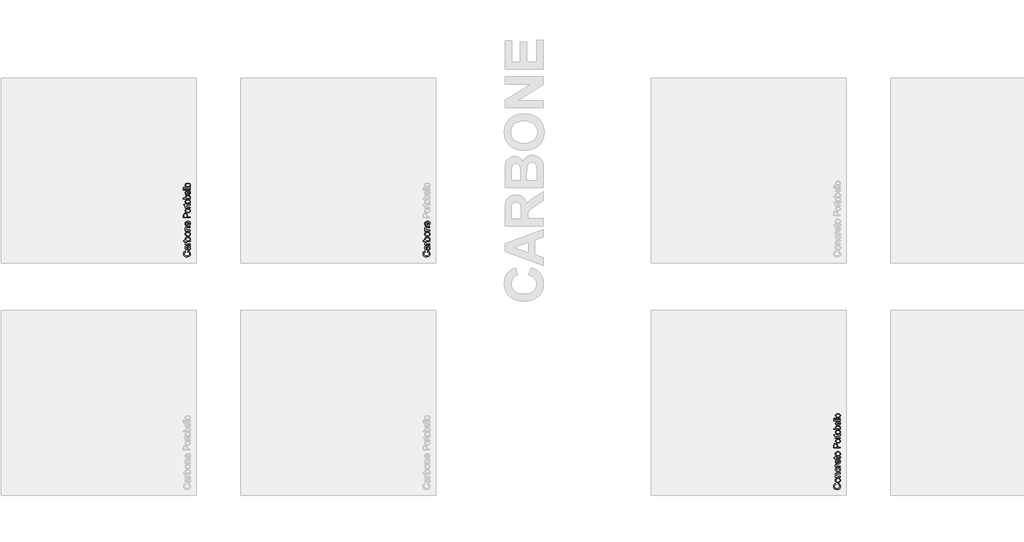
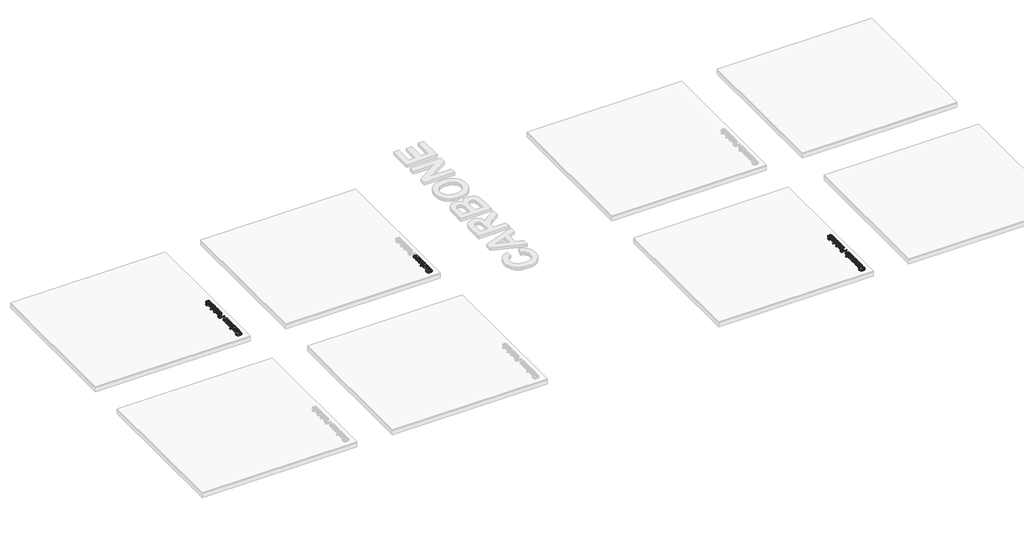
# One storey, part 4 of 12: 5 proxies.
"""IFC4 building model written with IfcOpenShell, lengths in millimetres."""

from ifc_helpers import new_model, si_unit, frame, origin, place, context, project, spatial, polyline, outline, extrude, element, save

model = new_model("IFC4")

# Units and contexts
model_context = context("Model", 3, world=origin())
ifc_project = project(units=[si_unit("LENGTHUNIT", "METRE", prefix="MILLI")], contexts=[model_context])

# Site, building, storey
site = spatial("IfcSite", under=ifc_project)
building = spatial("IfcBuilding", under=site)
storey = spatial("IfcBuildingStorey", under=building, Name="PORTOBELLO - SHOWROOM", Elevation=0.0)

# Proxies
placement = place(None, origin())
element("IfcBuildingElementProxy", 1, Name="10mm Arial", ObjectType="10mm Arial", at=placement, inside=storey, context=model_context, shape_type="SweptSolid", body=[
    extrude(outline(polyline([(-25305.3095564, -6297.3091823), (-25302.0721949, -6284.7521435), (-25287.4396885, -6290.5462849), (-25276.7496509, -6299.6391016), (-25270.2105484, -6311.5830037), (-25268.0308476, -6325.9304015), (-25269.6801852, -6340.4954628), (-25274.628198, -6352.0622859), (-25282.7032078, -6360.928242), (-25293.7335363, -6367.3907024), (-25320.588922, -6372.6514149), (-25335.2367567, -6371.1645585), (-25347.885766, -6366.7039893), (-25358.1343452, -6359.5026993), (-25365.58089, -6349.7936803), (-25370.1150356, -6338.2789738), (-25371.6264174, -6325.6606214), (-25369.6705115, -6311.8926377), (-25363.8027937, -6300.5097556), (-25354.3850146, -6291.8675944), (-25341.7789249, -6286.3217734), (-25338.786818, -6298.8788121), (-25354.2255991, -6309.179508), (-25359.0693787, -6326.1511307), (-25353.6983015, -6345.7960293), (-25339.2773273, -6356.8938028), (-25320.6134474, -6360.0943761), (-25298.9819861, -6356.3051916), (-25285.1618858, -6344.5084423), (-25280.5878863, -6327.1812003), (-25282.1452535, -6316.6996291), (-25286.8173548, -6307.9654974), (-25294.5551394, -6301.3712127), (-25305.3095564, -6297.3091823)])), frame((0.0, 0.0, 17.0), z_axis=(0.0, 0.0, 1.0), x_axis=(1.0, 0.0, 0.0)), (0.0, 0.0, 1.0), 20.0),
    extrude(outline(polyline([(-25279.0182565, -6221.9669497), (-25270.5079197, -6234.1438437), (-25268.0308476, -6247.596062), (-25269.5207697, -6258.0898959), (-25273.9905359, -6265.8307462), (-25280.7779587, -6270.6040151), (-25289.2208505, -6272.1951048), (-25299.1536644, -6269.7916091), (-25306.3641515, -6263.4763015), (-25310.4844298, -6254.6839218), (-25312.3728907, -6243.8191402), (-25316.6893728, -6222.0405261), (-25319.485276, -6221.9669497), (-25328.7559023, -6225.4250404), (-25332.3856713, -6239.3064544), (-25329.9699128, -6252.010646), (-25321.3982623, -6258.0684361), (-25322.9678922, -6270.6254749), (-25335.2306254, -6265.1930841), (-25342.416587, -6254.2547261), (-25344.94271, -6237.6877736), (-25342.7108926, -6222.4697217), (-25337.1068235, -6213.8735458), (-25328.584224, -6210.0230476), (-25317.5968151, -6209.4099109), (-25301.974093, -6209.4099109), (-25280.1586907, -6208.7722488), (-25269.6004774, -6206.2706512), (-25269.6004774, -6218.82769), (-25279.0182565, -6221.9669497)]), holes=[polyline([(-25304.132334, -6221.9669497), (-25300.2818358, -6242.2249849), (-25298.2462221, -6253.0284528), (-25294.9352842, -6257.9212833), (-25290.1037673, -6259.638066), (-25283.3102131, -6255.8979324), (-25280.5878863, -6244.9227862), (-25283.592256, -6232.2185946), (-25290.8640567, -6224.0270889), (-25300.5761414, -6222.0405261), (-25304.132334, -6221.9669497)])]), frame((0.0, 0.0, 17.0), z_axis=(0.0, 0.0, 1.0), x_axis=(1.0, 0.0, 0.0)), (0.0, 0.0, 1.0), 20.0),
    extrude(outline(polyline([(-25269.6004774, -6192.1439826), (-25343.3730802, -6192.1439826), (-25343.3730802, -6181.1565737), (-25332.4592477, -6181.1565737), (-25342.5146889, -6173.3574754), (-25344.94271, -6165.5093262), (-25341.0676864, -6152.9032364), (-25329.8104973, -6157.0970912), (-25332.3856713, -6165.9262591), (-25329.9085992, -6173.0263816), (-25323.0414686, -6177.5513301), (-25308.3752397, -6179.5869438), (-25269.6004774, -6179.5869438), (-25269.6004774, -6192.1439826)])), frame((0.0, 0.0, 17.0), z_axis=(0.0, 0.0, 1.0), x_axis=(1.0, 0.0, 0.0)), (0.0, 0.0, 1.0), 20.0),
    extrude(outline(polyline([(-25269.6004774, -6132.4980485), (-25269.6004774, -6145.0550872), (-25370.0567876, -6145.0550872), (-25370.0567876, -6132.4980485), (-25332.8026042, -6132.4980485), (-25341.9076836, -6123.7056688), (-25344.94271, -6112.7795735), (-25342.2081205, -6100.1980093), (-25334.5193868, -6090.4368737), (-25322.563222, -6084.4403971), (-25307.5904248, -6082.2698934), (-25290.8272685, -6084.5170392), (-25278.3560689, -6091.2584768), (-25270.6121529, -6101.1514368), (-25268.0308476, -6112.8531499), (-25271.3601796, -6124.0183685), (-25281.3481758, -6132.4980485), (-25269.6004774, -6132.4980485)]), holes=[polyline([(-25307.0018136, -6132.4980485), (-25289.4415797, -6129.0644832), (-25282.8013097, -6122.4855268), (-25280.5878863, -6113.9322704), (-25282.2188299, -6106.6849951), (-25287.1116604, -6100.4923149), (-25295.2357211, -6096.2432778), (-25306.5603552, -6094.8269321), (-25318.0505362, -6096.1850298), (-25326.0826264, -6100.2593229), (-25330.8099101, -6106.2588651), (-25332.3856713, -6113.3927102), (-25330.7547278, -6120.6399855), (-25325.8618972, -6126.8326657), (-25317.8849893, -6131.0817028), (-25307.0018136, -6132.4980485)])]), frame((0.0, 0.0, 17.0), z_axis=(0.0, 0.0, 1.0), x_axis=(1.0, 0.0, 0.0)), (0.0, 0.0, 1.0), 20.0),
    extrude(outline(polyline([(-25306.4867788, -6071.2824845), (-25324.2738733, -6068.5662891), (-25336.7757297, -6060.4177029), (-25342.900965, -6050.3499989), (-25344.94271, -6038.2957322), (-25342.4564409, -6025.104097), (-25334.9976334, -6014.5673435), (-25323.1548989, -6007.6603591), (-25307.5168484, -6005.3580309), (-25285.1741486, -6009.4292583), (-25272.5312707, -6021.2873213), (-25268.0308476, -6038.2957322), (-25270.5079197, -6051.646783), (-25277.939136, -6062.1712737), (-25290.0301909, -6069.0046818), (-25306.4867788, -6071.2824845)]), holes=[polyline([(-25306.5113043, -6058.7254457), (-25295.1468163, -6057.2723118), (-25287.0503467, -6052.9129102), (-25282.2035014, -6046.3523479), (-25280.5878863, -6038.2957322), (-25282.2126985, -6030.2759047), (-25287.0871349, -6023.7276052), (-25295.2909034, -6019.3682036), (-25306.9037117, -6017.9150697), (-25317.9371059, -6019.3774006), (-25325.9232109, -6023.7643934), (-25330.7700562, -6030.32189), (-25332.3856713, -6038.2957322), (-25330.7761875, -6046.3523479), (-25325.9477364, -6052.9129102), (-25317.8696609, -6057.2723118), (-25306.5113043, -6058.7254457)])]), frame((0.0, 0.0, 17.0), z_axis=(0.0, 0.0, 1.0), x_axis=(1.0, 0.0, 0.0)), (0.0, 0.0, 1.0), 20.0),
    extrude(outline(polyline([(-25269.6004774, -5991.2313623), (-25343.3730802, -5991.2313623), (-25343.3730802, -5978.6743235), (-25333.0723843, -5978.6743235), (-25341.9751286, -5969.0726035), (-25344.94271, -5955.9637417), (-25342.5514771, -5944.1056787), (-25336.2729577, -5936.0122748), (-25327.0391196, -5932.2476157), (-25314.8990138, -5931.5854282), (-25269.6004774, -5931.5854282), (-25269.6004774, -5944.1424669), (-25313.2067566, -5944.1424669), (-25324.3167928, -5945.5894694), (-25330.190642, -5950.7030292), (-25332.3856713, -5959.3237306), (-25327.4560525, -5972.9476271), (-25320.3130105, -5977.2426494), (-25308.7431217, -5978.6743235), (-25269.6004774, -5978.6743235), (-25269.6004774, -5991.2313623)])), frame((0.0, 0.0, 17.0), z_axis=(0.0, 0.0, 1.0), x_axis=(1.0, 0.0, 0.0)), (0.0, 0.0, 1.0), 20.0),
    extrude(outline(polyline([(-25291.5752953, -5862.6688677), (-25290.0056654, -5850.3570836), (-25280.7289078, -5854.7931273), (-25273.7943322, -5861.8717901), (-25269.4717187, -5871.4336563), (-25268.0308476, -5883.3193104), (-25270.5171167, -5898.0529843), (-25277.9759242, -5909.3898811), (-25289.922892, -5916.6187623), (-25305.8736422, -5919.0283894), (-25322.3608869, -5916.5942368), (-25334.6910651, -5909.2917792), (-25342.3797988, -5898.1081666), (-25344.94271, -5884.0305489), (-25342.3859302, -5870.3913239), (-25334.7155906, -5859.4928198), (-25322.4099378, -5852.3467121), (-25305.9472185, -5849.9646762), (-25302.5627042, -5850.0382526), (-25302.5627042, -5906.4713506), (-25293.1633192, -5904.2977812), (-25286.2532691, -5899.2486008), (-25282.004232, -5891.9614716), (-25280.5878863, -5883.0740557), (-25283.2121112, -5870.7622716), (-25291.5752953, -5862.6688677)]), holes=[polyline([(-25315.119743, -5906.4713506), (-25315.119743, -5862.5217149), (-25326.4995593, -5867.5494355), (-25330.9141433, -5874.8702872), (-25332.3856713, -5884.0795998), (-25327.6890445, -5899.5429064), (-25322.1984057, -5904.4081458), (-25315.119743, -5906.4713506)])]), frame((0.0, 0.0, 17.0), z_axis=(0.0, 0.0, 1.0), x_axis=(1.0, 0.0, 0.0)), (0.0, 0.0, 1.0), 20.0),
])
element("IfcBuildingElementProxy", 2, Name="10mm Arial", ObjectType="10mm Arial", at=placement, inside=storey, context=model_context, shape_type="SweptSolid", body=[
    extrude(outline(polyline([(-28805.3095564, -6297.3091823), (-28802.0721949, -6284.7521435), (-28787.4396885, -6290.5462849), (-28776.7496509, -6299.6391016), (-28770.2105484, -6311.5830037), (-28768.0308476, -6325.9304015), (-28769.6801852, -6340.4954628), (-28774.628198, -6352.0622859), (-28782.7032078, -6360.928242), (-28793.7335363, -6367.3907024), (-28820.588922, -6372.6514149), (-28835.2367567, -6371.1645585), (-28847.885766, -6366.7039893), (-28858.1343452, -6359.5026993), (-28865.58089, -6349.7936803), (-28870.1150356, -6338.2789738), (-28871.6264174, -6325.6606214), (-28869.6705115, -6311.8926377), (-28863.8027937, -6300.5097556), (-28854.3850146, -6291.8675944), (-28841.7789249, -6286.3217734), (-28838.786818, -6298.8788121), (-28854.2255991, -6309.179508), (-28859.0693787, -6326.1511307), (-28853.6983015, -6345.7960293), (-28839.2773273, -6356.8938028), (-28820.6134474, -6360.0943761), (-28798.9819861, -6356.3051916), (-28785.1618858, -6344.5084423), (-28780.5878863, -6327.1812003), (-28782.1452535, -6316.6996291), (-28786.8173548, -6307.9654974), (-28794.5551394, -6301.3712127), (-28805.3095564, -6297.3091823)])), frame((0.0, 0.0, 17.0), z_axis=(0.0, 0.0, 1.0), x_axis=(1.0, 0.0, 0.0)), (0.0, 0.0, 1.0), 20.0),
    extrude(outline(polyline([(-28779.0182565, -6221.9669497), (-28770.5079197, -6234.1438437), (-28768.0308476, -6247.596062), (-28769.5207697, -6258.0898959), (-28773.9905359, -6265.8307462), (-28780.7779587, -6270.6040151), (-28789.2208505, -6272.1951048), (-28799.1536644, -6269.7916091), (-28806.3641515, -6263.4763015), (-28810.4844298, -6254.6839218), (-28812.3728907, -6243.8191402), (-28816.6893728, -6222.0405261), (-28819.485276, -6221.9669497), (-28828.7559023, -6225.4250404), (-28832.3856713, -6239.3064544), (-28829.9699128, -6252.010646), (-28821.3982623, -6258.0684361), (-28822.9678922, -6270.6254749), (-28835.2306254, -6265.1930841), (-28842.416587, -6254.2547261), (-28844.94271, -6237.6877736), (-28842.7108926, -6222.4697217), (-28837.1068235, -6213.8735458), (-28828.584224, -6210.0230476), (-28817.5968151, -6209.4099109), (-28801.974093, -6209.4099109), (-28780.1586907, -6208.7722488), (-28769.6004774, -6206.2706512), (-28769.6004774, -6218.82769), (-28779.0182565, -6221.9669497)]), holes=[polyline([(-28804.132334, -6221.9669497), (-28800.2818358, -6242.2249849), (-28798.2462221, -6253.0284528), (-28794.9352842, -6257.9212833), (-28790.1037673, -6259.638066), (-28783.3102131, -6255.8979324), (-28780.5878863, -6244.9227862), (-28783.592256, -6232.2185946), (-28790.8640567, -6224.0270889), (-28800.5761414, -6222.0405261), (-28804.132334, -6221.9669497)])]), frame((0.0, 0.0, 17.0), z_axis=(0.0, 0.0, 1.0), x_axis=(1.0, 0.0, 0.0)), (0.0, 0.0, 1.0), 20.0),
    extrude(outline(polyline([(-28769.6004774, -6192.1439826), (-28843.3730802, -6192.1439826), (-28843.3730802, -6181.1565737), (-28832.4592477, -6181.1565737), (-28842.5146889, -6173.3574754), (-28844.94271, -6165.5093262), (-28841.0676864, -6152.9032364), (-28829.8104973, -6157.0970912), (-28832.3856713, -6165.9262591), (-28829.9085992, -6173.0263816), (-28823.0414686, -6177.5513301), (-28808.3752397, -6179.5869438), (-28769.6004774, -6179.5869438), (-28769.6004774, -6192.1439826)])), frame((0.0, 0.0, 17.0), z_axis=(0.0, 0.0, 1.0), x_axis=(1.0, 0.0, 0.0)), (0.0, 0.0, 1.0), 20.0),
    extrude(outline(polyline([(-28769.6004774, -6132.4980485), (-28769.6004774, -6145.0550872), (-28870.0567876, -6145.0550872), (-28870.0567876, -6132.4980485), (-28832.8026042, -6132.4980485), (-28841.9076836, -6123.7056688), (-28844.94271, -6112.7795735), (-28842.2081205, -6100.1980093), (-28834.5193868, -6090.4368737), (-28822.563222, -6084.4403971), (-28807.5904248, -6082.2698934), (-28790.8272685, -6084.5170392), (-28778.3560689, -6091.2584768), (-28770.6121529, -6101.1514368), (-28768.0308476, -6112.8531499), (-28771.3601796, -6124.0183685), (-28781.3481758, -6132.4980485), (-28769.6004774, -6132.4980485)]), holes=[polyline([(-28807.0018136, -6132.4980485), (-28789.4415797, -6129.0644832), (-28782.8013097, -6122.4855268), (-28780.5878863, -6113.9322704), (-28782.2188299, -6106.6849951), (-28787.1116604, -6100.4923149), (-28795.2357211, -6096.2432778), (-28806.5603552, -6094.8269321), (-28818.0505362, -6096.1850298), (-28826.0826264, -6100.2593229), (-28830.8099101, -6106.2588651), (-28832.3856713, -6113.3927102), (-28830.7547278, -6120.6399855), (-28825.8618972, -6126.8326657), (-28817.8849893, -6131.0817028), (-28807.0018136, -6132.4980485)])]), frame((0.0, 0.0, 17.0), z_axis=(0.0, 0.0, 1.0), x_axis=(1.0, 0.0, 0.0)), (0.0, 0.0, 1.0), 20.0),
    extrude(outline(polyline([(-28806.4867788, -6071.2824845), (-28824.2738733, -6068.5662891), (-28836.7757297, -6060.4177029), (-28842.900965, -6050.3499989), (-28844.94271, -6038.2957322), (-28842.4564409, -6025.104097), (-28834.9976334, -6014.5673435), (-28823.1548989, -6007.6603591), (-28807.5168484, -6005.3580309), (-28785.1741486, -6009.4292583), (-28772.5312707, -6021.2873213), (-28768.0308476, -6038.2957322), (-28770.5079197, -6051.646783), (-28777.939136, -6062.1712737), (-28790.0301909, -6069.0046818), (-28806.4867788, -6071.2824845)]), holes=[polyline([(-28806.5113043, -6058.7254457), (-28795.1468163, -6057.2723118), (-28787.0503467, -6052.9129102), (-28782.2035014, -6046.3523479), (-28780.5878863, -6038.2957322), (-28782.2126985, -6030.2759047), (-28787.0871349, -6023.7276052), (-28795.2909034, -6019.3682036), (-28806.9037117, -6017.9150697), (-28817.9371059, -6019.3774006), (-28825.9232109, -6023.7643934), (-28830.7700562, -6030.32189), (-28832.3856713, -6038.2957322), (-28830.7761875, -6046.3523479), (-28825.9477364, -6052.9129102), (-28817.8696609, -6057.2723118), (-28806.5113043, -6058.7254457)])]), frame((0.0, 0.0, 17.0), z_axis=(0.0, 0.0, 1.0), x_axis=(1.0, 0.0, 0.0)), (0.0, 0.0, 1.0), 20.0),
    extrude(outline(polyline([(-28769.6004774, -5991.2313623), (-28843.3730802, -5991.2313623), (-28843.3730802, -5978.6743235), (-28833.0723843, -5978.6743235), (-28841.9751286, -5969.0726035), (-28844.94271, -5955.9637417), (-28842.5514771, -5944.1056787), (-28836.2729577, -5936.0122748), (-28827.0391196, -5932.2476157), (-28814.8990138, -5931.5854282), (-28769.6004774, -5931.5854282), (-28769.6004774, -5944.1424669), (-28813.2067566, -5944.1424669), (-28824.3167928, -5945.5894694), (-28830.190642, -5950.7030292), (-28832.3856713, -5959.3237306), (-28827.4560525, -5972.9476271), (-28820.3130105, -5977.2426494), (-28808.7431217, -5978.6743235), (-28769.6004774, -5978.6743235), (-28769.6004774, -5991.2313623)])), frame((0.0, 0.0, 17.0), z_axis=(0.0, 0.0, 1.0), x_axis=(1.0, 0.0, 0.0)), (0.0, 0.0, 1.0), 20.0),
    extrude(outline(polyline([(-28791.5752953, -5862.6688677), (-28790.0056654, -5850.3570836), (-28780.7289078, -5854.7931273), (-28773.7943322, -5861.8717901), (-28769.4717187, -5871.4336563), (-28768.0308476, -5883.3193104), (-28770.5171167, -5898.0529843), (-28777.9759242, -5909.3898811), (-28789.922892, -5916.6187623), (-28805.8736422, -5919.0283894), (-28822.3608869, -5916.5942368), (-28834.6910651, -5909.2917792), (-28842.3797988, -5898.1081666), (-28844.94271, -5884.0305489), (-28842.3859302, -5870.3913239), (-28834.7155906, -5859.4928198), (-28822.4099378, -5852.3467121), (-28805.9472185, -5849.9646762), (-28802.5627042, -5850.0382526), (-28802.5627042, -5906.4713506), (-28793.1633192, -5904.2977812), (-28786.2532691, -5899.2486008), (-28782.004232, -5891.9614716), (-28780.5878863, -5883.0740557), (-28783.2121112, -5870.7622716), (-28791.5752953, -5862.6688677)]), holes=[polyline([(-28815.119743, -5906.4713506), (-28815.119743, -5862.5217149), (-28826.4995593, -5867.5494355), (-28830.9141433, -5874.8702872), (-28832.3856713, -5884.0795998), (-28827.6890445, -5899.5429064), (-28822.1984057, -5904.4081458), (-28815.119743, -5906.4713506)])]), frame((0.0, 0.0, 17.0), z_axis=(0.0, 0.0, 1.0), x_axis=(1.0, 0.0, 0.0)), (0.0, 0.0, 1.0), 20.0),
])
element("IfcBuildingElementProxy", 3, Name="10mm Arial", ObjectType="10mm Arial", at=placement, inside=storey, context=model_context, shape_type="SweptSolid", body=[
    extrude(outline(polyline([(-19305.3095564, -9697.3091823), (-19302.0721949, -9684.7521435), (-19287.4396885, -9690.5462849), (-19276.7496509, -9699.6391016), (-19270.2105484, -9711.5830037), (-19268.0308476, -9725.9304015), (-19269.6801852, -9740.4954628), (-19274.628198, -9752.0622859), (-19282.7032078, -9760.928242), (-19293.7335363, -9767.3907024), (-19320.588922, -9772.6514149), (-19335.2367567, -9771.1645585), (-19347.885766, -9766.7039893), (-19358.1343452, -9759.5026993), (-19365.58089, -9749.7936803), (-19370.1150356, -9738.2789738), (-19371.6264174, -9725.6606214), (-19369.6705115, -9711.8926377), (-19363.8027937, -9700.5097556), (-19354.3850146, -9691.8675944), (-19341.7789249, -9686.3217734), (-19338.786818, -9698.8788121), (-19354.2255991, -9709.179508), (-19359.0693787, -9726.1511307), (-19353.6983015, -9745.7960293), (-19339.2773273, -9756.8938028), (-19320.6134474, -9760.0943761), (-19298.9819861, -9756.3051916), (-19285.1618858, -9744.5084423), (-19280.5878863, -9727.1812003), (-19282.1452535, -9716.6996291), (-19286.8173548, -9707.9654974), (-19294.5551394, -9701.3712127), (-19305.3095564, -9697.3091823)])), frame((0.0, 0.0, 17.0), z_axis=(0.0, 0.0, 1.0), x_axis=(1.0, 0.0, 0.0)), (0.0, 0.0, 1.0), 20.0),
    extrude(outline(polyline([(-19306.4867788, -9672.1951048), (-19324.2738733, -9669.4789094), (-19336.7757297, -9661.3303232), (-19342.900965, -9651.2626192), (-19344.94271, -9639.2083525), (-19342.4564409, -9626.0167173), (-19334.9976334, -9615.4799638), (-19323.1548989, -9608.5729794), (-19307.5168484, -9606.2706512), (-19285.1741486, -9610.3418786), (-19272.5312707, -9622.1999416), (-19268.0308476, -9639.2083525), (-19270.5079197, -9652.5594033), (-19277.939136, -9663.083894), (-19290.0301909, -9669.9173021), (-19306.4867788, -9672.1951048)]), holes=[polyline([(-19306.5113043, -9659.638066), (-19295.1468163, -9658.1849321), (-19287.0503467, -9653.8255305), (-19282.2035014, -9647.2649682), (-19280.5878863, -9639.2083525), (-19282.2126985, -9631.188525), (-19287.0871349, -9624.6402255), (-19295.2909034, -9620.2808239), (-19306.9037117, -9618.82769), (-19317.9371059, -9620.2900209), (-19325.9232109, -9624.6770137), (-19330.7700562, -9631.2345103), (-19332.3856713, -9639.2083525), (-19330.7761875, -9647.2649682), (-19325.9477364, -9653.8255305), (-19317.8696609, -9658.1849321), (-19306.5113043, -9659.638066)])]), frame((0.0, 0.0, 17.0), z_axis=(0.0, 0.0, 1.0), x_axis=(1.0, 0.0, 0.0)), (0.0, 0.0, 1.0), 20.0),
    extrude(outline(polyline([(-19269.6004774, -9592.1439826), (-19343.3730802, -9592.1439826), (-19343.3730802, -9579.5869438), (-19333.0723843, -9579.5869438), (-19341.9751286, -9569.9852238), (-19344.94271, -9556.876362), (-19342.5514771, -9545.018299), (-19336.2729577, -9536.9248951), (-19327.0391196, -9533.160236), (-19314.8990138, -9532.4980485), (-19269.6004774, -9532.4980485), (-19269.6004774, -9545.0550872), (-19313.2067566, -9545.0550872), (-19324.3167928, -9546.5020897), (-19330.190642, -9551.6156495), (-19332.3856713, -9560.2363509), (-19327.4560525, -9573.8602474), (-19320.3130105, -9578.1552697), (-19308.7431217, -9579.5869438), (-19269.6004774, -9579.5869438), (-19269.6004774, -9592.1439826)])), frame((0.0, 0.0, 17.0), z_axis=(0.0, 0.0, 1.0), x_axis=(1.0, 0.0, 0.0)), (0.0, 0.0, 1.0), 20.0),
    extrude(outline(polyline([(-19296.2841848, -9468.1432248), (-19294.714555, -9455.586186), (-19283.5462707, -9459.0871963), (-19275.1064446, -9465.6661527), (-19269.7997468, -9474.703787), (-19268.0308476, -9485.5808313), (-19270.4987226, -9498.9380134), (-19277.9023478, -9509.3827964), (-19289.9167606, -9516.124234), (-19306.2169987, -9518.3713798), (-19327.0759078, -9514.5331444), (-19340.4790752, -9502.8344969), (-19344.94271, -9485.7525096), (-19343.4098684, -9475.1421797), (-19338.8113435, -9466.659434), (-19331.3923899, -9460.5740527), (-19321.3982623, -9457.1558158), (-19319.8286325, -9469.7128546), (-19329.2341488, -9475.5376529), (-19332.3856713, -9485.6544077), (-19330.8344355, -9493.7692714), (-19326.1807283, -9500.210272), (-19318.1731635, -9504.4133238), (-19306.5603552, -9505.8143411), (-19294.791197, -9504.4439806), (-19286.7560411, -9500.3328993), (-19282.129925, -9494.0083947), (-19280.5878863, -9485.9977643), (-19284.4383846, -9474.1642267), (-19296.2841848, -9468.1432248)])), frame((0.0, 0.0, 17.0), z_axis=(0.0, 0.0, 1.0), x_axis=(1.0, 0.0, 0.0)), (0.0, 0.0, 1.0), 20.0),
    extrude(outline(polyline([(-19269.6004774, -9444.5987771), (-19343.3730802, -9444.5987771), (-19343.3730802, -9433.6113681), (-19332.4592477, -9433.6113681), (-19342.5146889, -9425.8122698), (-19344.94271, -9417.9641206), (-19341.0676864, -9405.3580309), (-19329.8104973, -9409.5518857), (-19332.3856713, -9418.3810535), (-19329.9085992, -9425.4811761), (-19323.0414686, -9430.0061246), (-19308.3752397, -9432.0417383), (-19269.6004774, -9432.0417383), (-19269.6004774, -9444.5987771)])), frame((0.0, 0.0, 17.0), z_axis=(0.0, 0.0, 1.0), x_axis=(1.0, 0.0, 0.0)), (0.0, 0.0, 1.0), 20.0),
    extrude(outline(polyline([(-19291.5752953, -9345.8592496), (-19290.0056654, -9333.5474655), (-19280.7289078, -9337.9835092), (-19273.7943322, -9345.0621719), (-19269.4717187, -9354.6240381), (-19268.0308476, -9366.5096922), (-19270.5171167, -9381.2433661), (-19277.9759242, -9392.580263), (-19289.922892, -9399.8091442), (-19305.8736422, -9402.2187712), (-19322.3608869, -9399.7846187), (-19334.6910651, -9392.4821611), (-19342.3797988, -9381.2985484), (-19344.94271, -9367.2209308), (-19342.3859302, -9353.5817058), (-19334.7155906, -9342.6832017), (-19322.4099378, -9335.5370939), (-19305.9472185, -9333.155058), (-19302.5627042, -9333.2286344), (-19302.5627042, -9389.6617325), (-19293.1633192, -9387.488163), (-19286.2532691, -9382.4389826), (-19282.004232, -9375.1518534), (-19280.5878863, -9366.2644376), (-19283.2121112, -9353.9526535), (-19291.5752953, -9345.8592496)]), holes=[polyline([(-19315.119743, -9389.6617325), (-19315.119743, -9345.7120968), (-19326.4995593, -9350.7398174), (-19330.9141433, -9358.0606691), (-19332.3856713, -9367.2699817), (-19327.6890445, -9382.7332882), (-19322.1984057, -9387.5985276), (-19315.119743, -9389.6617325)])]), frame((0.0, 0.0, 17.0), z_axis=(0.0, 0.0, 1.0), x_axis=(1.0, 0.0, 0.0)), (0.0, 0.0, 1.0), 20.0),
    extrude(outline(polyline([(-19280.0728516, -9293.9143118), (-19269.2325954, -9292.344682), (-19268.0308476, -9301.7379356), (-19270.1155122, -9312.2593607), (-19275.5846912, -9317.5078105), (-19289.8339872, -9319.0283894), (-19330.8160414, -9319.0283894), (-19330.8160414, -9328.4461685), (-19343.3730802, -9328.4461685), (-19343.3730802, -9319.0283894), (-19361.3011961, -9319.0283894), (-19368.6833615, -9306.4713506), (-19343.3730802, -9306.4713506), (-19343.3730802, -9293.9143118), (-19330.8160414, -9293.9143118), (-19330.8160414, -9306.4713506), (-19290.2018692, -9306.4713506), (-19283.727146, -9305.809163), (-19281.4340149, -9303.6631847), (-19280.5878863, -9299.3834908), (-19280.0728516, -9293.9143118)])), frame((0.0, 0.0, 17.0), z_axis=(0.0, 0.0, 1.0), x_axis=(1.0, 0.0, 0.0)), (0.0, 0.0, 1.0), 20.0),
    extrude(outline(polyline([(-19306.4867788, -9284.4965328), (-19324.2738733, -9281.7803374), (-19336.7757297, -9273.6317512), (-19342.900965, -9263.5640472), (-19344.94271, -9251.5097805), (-19342.4564409, -9238.3181453), (-19334.9976334, -9227.7813918), (-19323.1548989, -9220.8744074), (-19307.5168484, -9218.5720792), (-19285.1741486, -9222.6433066), (-19272.5312707, -9234.5013696), (-19268.0308476, -9251.5097805), (-19270.5079197, -9264.8608313), (-19277.939136, -9275.385322), (-19290.0301909, -9282.2187301), (-19306.4867788, -9284.4965328)]), holes=[polyline([(-19306.5113043, -9271.939494), (-19295.1468163, -9270.4863601), (-19287.0503467, -9266.1269585), (-19282.2035014, -9259.5663962), (-19280.5878863, -9251.5097805), (-19282.2126985, -9243.489953), (-19287.0871349, -9236.9416535), (-19295.2909034, -9232.5822519), (-19306.9037117, -9231.129118), (-19317.9371059, -9232.5914489), (-19325.9232109, -9236.9784417), (-19330.7700562, -9243.5359383), (-19332.3856713, -9251.5097805), (-19330.7761875, -9259.5663962), (-19325.9477364, -9266.1269585), (-19317.8696609, -9270.4863601), (-19306.5113043, -9271.939494)])]), frame((0.0, 0.0, 17.0), z_axis=(0.0, 0.0, 1.0), x_axis=(1.0, 0.0, 0.0)), (0.0, 0.0, 1.0), 20.0),
])
element("IfcBuildingElementProxy", 4, Name="10mm Arial Narrow", ObjectType="10mm Arial Narrow", at=placement, inside=storey, context=model_context, shape_type="SweptSolid", body=[
    extrude(outline(polyline([(-28769.6004774, -5795.6286257), (-28870.3190812, -5795.6286257), (-28870.3190812, -5764.3317411), (-28868.4407604, -5748.0360395), (-28858.9603173, -5736.5630534), (-28841.9412084, -5732.273375), (-28829.8653829, -5734.0596834), (-28820.2389891, -5739.4186086), (-28813.9377307, -5749.1623974), (-28811.8373113, -5764.1032966), (-28811.8373113, -5785.8816641), (-28769.6004774, -5785.8816641), (-28769.6004774, -5795.6286257)]), holes=[polyline([(-28823.2087665, -5785.8816641), (-28823.2087665, -5762.9103091), (-28827.7395807, -5747.0461137), (-28841.4081715, -5742.0203366), (-28851.5739479, -5744.4951511), (-28857.3738977, -5750.47278), (-28858.9476259, -5763.1387536), (-28858.9476259, -5785.8816641), (-28823.2087665, -5785.8816641)])]), frame((0.0, 0.0, 17.0), z_axis=(0.0, 0.0, 1.0), x_axis=(1.0, 0.0, 0.0)), (0.0, 0.0, 1.0), 20.0),
    extrude(outline(polyline([(-28806.1515836, -5724.1509069), (-28822.7423592, -5722.1964381), (-28834.694444, -5716.3330315), (-28841.9189986, -5707.4744647), (-28844.3271834, -5696.5345156), (-28841.9189986, -5685.72148), (-28834.694444, -5676.8375306), (-28822.9327295, -5670.8979758), (-28806.913065, -5668.9181242), (-28789.7511784, -5670.8630746), (-28777.6087233, -5676.6979257), (-28770.3841687, -5685.5469739), (-28767.9759838, -5696.5345156), (-28770.3905144, -5707.3951438), (-28777.634106, -5716.2695747), (-28789.5925365, -5722.1805739), (-28806.1515836, -5724.1509069)]), holes=[polyline([(-28806.1769663, -5714.4039453), (-28793.6252149, -5713.0999084), (-28784.7539569, -5709.1877978), (-28779.4806983, -5703.3466011), (-28777.7229455, -5696.2553058), (-28779.4965625, -5689.5352326), (-28784.8174137, -5683.8431593), (-28793.7045359, -5679.9596042), (-28806.1769663, -5678.6650859), (-28818.6906437, -5679.9691228), (-28827.5492104, -5683.8812333), (-28832.8224689, -5689.7224301), (-28834.5802218, -5696.8137254), (-28832.8129504, -5703.5813912), (-28827.5111363, -5709.263946), (-28818.6430511, -5713.1189455), (-28806.1769663, -5714.4039453)])]), frame((0.0, 0.0, 17.0), z_axis=(0.0, 0.0, 1.0), x_axis=(1.0, 0.0, 0.0)), (0.0, 0.0, 1.0), 20.0),
    extrude(outline(polyline([(-28777.7229455, -5597.4404054), (-28767.9759838, -5595.8159118), (-28767.9759838, -5603.1768985), (-28770.0954403, -5611.4516628), (-28775.8953902, -5615.766724), (-28790.5412154, -5616.9343288), (-28832.9557282, -5616.9343288), (-28832.9557282, -5625.0567968), (-28836.2047154, -5625.0567968), (-28831.3312346, -5626.6812904), (-28832.9557282, -5634.2453388), (-28830.63321, -5640.3244985), (-28824.1479269, -5644.1953621), (-28808.7406203, -5646.1752137), (-28769.6004774, -5646.1752137), (-28769.6004774, -5655.9221754), (-28842.7026898, -5655.9221754), (-28842.7026898, -5646.1752137), (-28833.0064936, -5646.1752137), (-28842.0935047, -5639.9310664), (-28844.3271834, -5633.5346228), (-28842.7026898, -5625.0567968), (-28842.7026898, -5616.9343288), (-28858.9476259, -5616.9343288), (-28867.070094, -5607.1873671), (-28842.7026898, -5607.1873671), (-28842.7026898, -5597.4404054), (-28832.9557282, -5597.4404054), (-28832.9557282, -5607.1873671), (-28788.3075366, -5607.1873671), (-28780.3119822, -5606.3243549), (-28777.7229455, -5601.7047012), (-28777.7229455, -5597.4404054)])), frame((0.0, 0.0, 17.0), z_axis=(0.0, 0.0, 1.0), x_axis=(1.0, 0.0, 0.0)), (0.0, 0.0, 1.0), 20.0),
    extrude(outline(polyline([(-28806.1515836, -5590.942431), (-28822.7423592, -5588.9879621), (-28834.694444, -5583.1245555), (-28841.9189986, -5574.2659888), (-28844.3271834, -5563.3260397), (-28841.9189986, -5552.5130041), (-28834.694444, -5543.6290547), (-28822.9327295, -5537.6894999), (-28806.913065, -5535.7096483), (-28789.7511784, -5537.6545987), (-28777.6087233, -5543.4894497), (-28770.3841687, -5552.3384979), (-28767.9759838, -5563.3260397), (-28770.3905144, -5574.1866678), (-28777.634106, -5583.0610987), (-28789.5925365, -5588.9720979), (-28806.1515836, -5590.942431)]), holes=[polyline([(-28806.1769663, -5581.1954694), (-28793.6252149, -5579.8914325), (-28784.7539569, -5575.9793219), (-28779.4806983, -5570.1381252), (-28777.7229455, -5563.0468298), (-28779.4965625, -5556.3267567), (-28784.8174137, -5550.6346833), (-28793.7045359, -5546.7511283), (-28806.1769663, -5545.45661), (-28818.6906437, -5546.7606468), (-28827.5492104, -5550.6727574), (-28832.8224689, -5556.5139542), (-28834.5802218, -5563.6052495), (-28832.8129504, -5570.3729153), (-28827.5111363, -5576.05547), (-28818.6430511, -5579.9104695), (-28806.1769663, -5581.1954694)])]), frame((0.0, 0.0, 17.0), z_axis=(0.0, 0.0, 1.0), x_axis=(1.0, 0.0, 0.0)), (0.0, 0.0, 1.0), 20.0),
    extrude(outline(polyline([(-28769.6004774, -5512.9667378), (-28769.6004774, -5522.7136994), (-28870.3190812, -5522.7136994), (-28870.3190812, -5512.9667378), (-28834.910197, -5512.9667378), (-28841.9919739, -5505.5676771), (-28844.3271834, -5496.3664437), (-28840.1263445, -5483.4847171), (-28827.3969141, -5474.2073356), (-28806.7100033, -5470.729904), (-28790.2556598, -5472.662163), (-28778.0529207, -5478.45894), (-28770.495218, -5486.8320623), (-28767.9759838, -5496.4933573), (-28770.5904032, -5505.8341955), (-28778.3575133, -5512.9667378), (-28769.6004774, -5512.9667378)]), holes=[polyline([(-28806.7100033, -5512.9667378), (-28789.4624501, -5510.8853553), (-28780.7307969, -5504.996566), (-28777.7229455, -5496.5441227), (-28779.5124267, -5490.6013951), (-28784.8808704, -5485.3630378), (-28806.3038799, -5480.4768656), (-28827.7395807, -5485.1853588), (-28832.8700615, -5490.4300618), (-28834.5802218, -5496.7471844), (-28832.7907405, -5502.7248132), (-28827.4222968, -5508.0171088), (-28806.7100033, -5512.9667378)])]), frame((0.0, 0.0, 17.0), z_axis=(0.0, 0.0, 1.0), x_axis=(1.0, 0.0, 0.0)), (0.0, 0.0, 1.0), 20.0),
    extrude(outline(polyline([(-28792.343388, -5418.7461085), (-28790.7188943, -5408.9991468), (-28780.8323278, -5412.6986772), (-28773.7124769, -5418.5176641), (-28769.4101071, -5426.2213173), (-28767.9759838, -5435.5748469), (-28770.3905144, -5447.1684009), (-28777.634106, -5456.3125232), (-28789.4402402, -5462.2520779), (-28805.5423985, -5464.2319295), (-28822.2093222, -5462.2425594), (-28834.3898514, -5456.2744491), (-28841.8428504, -5447.2604133), (-28844.3271834, -5436.1332666), (-28841.9285171, -5425.4503174), (-28834.7325181, -5416.7028001), (-28822.9930135, -5410.867949), (-28806.9638304, -5408.9229987), (-28803.7148432, -5408.9991468), (-28803.7148432, -5454.4849679), (-28784.2716853, -5448.4819563), (-28779.3601304, -5442.5519201), (-28777.7229455, -5435.4479334), (-28781.3780561, -5425.2694656), (-28792.343388, -5418.7461085)]), holes=[polyline([(-28813.4618049, -5453.8250173), (-28813.4618049, -5418.7461085), (-28827.7268894, -5423.0104042), (-28832.8668887, -5428.8357367), (-28834.5802218, -5436.0571185), (-28828.8691114, -5448.2662033), (-28813.4618049, -5453.8250173)])]), frame((0.0, 0.0, 17.0), z_axis=(0.0, 0.0, 1.0), x_axis=(1.0, 0.0, 0.0)), (0.0, 0.0, 1.0), 20.0),
    extrude(outline(polyline([(-28769.6004774, -5396.0031979), (-28870.3190812, -5396.0031979), (-28870.3190812, -5386.2562363), (-28769.6004774, -5386.2562363), (-28769.6004774, -5396.0031979)])), frame((0.0, 0.0, 17.0), z_axis=(0.0, 0.0, 1.0), x_axis=(1.0, 0.0, 0.0)), (0.0, 0.0, 1.0), 20.0),
    extrude(outline(polyline([(-28769.6004774, -5370.0113002), (-28870.3190812, -5370.0113002), (-28870.3190812, -5360.2643385), (-28769.6004774, -5360.2643385), (-28769.6004774, -5370.0113002)])), frame((0.0, 0.0, 17.0), z_axis=(0.0, 0.0, 1.0), x_axis=(1.0, 0.0, 0.0)), (0.0, 0.0, 1.0), 20.0),
    extrude(outline(polyline([(-28806.1515836, -5348.8928833), (-28822.7423592, -5346.9384144), (-28834.694444, -5341.0750078), (-28841.9189986, -5332.2164411), (-28844.3271834, -5321.2764919), (-28841.9189986, -5310.4634563), (-28834.694444, -5301.5795069), (-28822.9327295, -5295.6399522), (-28806.913065, -5293.6601006), (-28789.7511784, -5295.6050509), (-28777.6087233, -5301.439902), (-28770.3841687, -5310.2889502), (-28767.9759838, -5321.2764919), (-28770.3905144, -5332.1371201), (-28777.634106, -5341.011551), (-28789.5925365, -5346.9225502), (-28806.1515836, -5348.8928833)]), holes=[polyline([(-28806.1769663, -5339.1459216), (-28793.6252149, -5337.8418848), (-28784.7539569, -5333.9297742), (-28779.4806983, -5328.0885774), (-28777.7229455, -5320.9972821), (-28779.4965625, -5314.2772089), (-28784.8174137, -5308.5851356), (-28793.7045359, -5304.7015806), (-28806.1769663, -5303.4070622), (-28818.6906437, -5304.7110991), (-28827.5492104, -5308.6232097), (-28832.8224689, -5314.4644064), (-28834.5802218, -5321.5557018), (-28832.8129504, -5328.3233675), (-28827.5111363, -5334.0059223), (-28818.6430511, -5337.8609218), (-28806.1769663, -5339.1459216)])]), frame((0.0, 0.0, 17.0), z_axis=(0.0, 0.0, 1.0), x_axis=(1.0, 0.0, 0.0)), (0.0, 0.0, 1.0), 20.0),
])
element("IfcBuildingElementProxy", 5, Name="10mm Arial Narrow", ObjectType="10mm Arial Narrow", at=placement, inside=storey, context=model_context, shape_type="SweptSolid", body=[
    extrude(outline(polyline([(-19269.6004774, -9165.6286257), (-19370.3190812, -9165.6286257), (-19370.3190812, -9134.3317411), (-19368.4407604, -9118.0360395), (-19358.9603173, -9106.5630534), (-19341.9412084, -9102.273375), (-19329.8653829, -9104.0596834), (-19320.2389891, -9109.4186086), (-19313.9377307, -9119.1623974), (-19311.8373113, -9134.1032966), (-19311.8373113, -9155.8816641), (-19269.6004774, -9155.8816641), (-19269.6004774, -9165.6286257)]), holes=[polyline([(-19323.2087665, -9155.8816641), (-19323.2087665, -9132.9103091), (-19327.7395807, -9117.0461137), (-19341.4081715, -9112.0203366), (-19351.5739479, -9114.4951511), (-19357.3738977, -9120.47278), (-19358.9476259, -9133.1387536), (-19358.9476259, -9155.8816641), (-19323.2087665, -9155.8816641)])]), frame((0.0, 0.0, 17.0), z_axis=(0.0, 0.0, 1.0), x_axis=(1.0, 0.0, 0.0)), (0.0, 0.0, 1.0), 20.0),
    extrude(outline(polyline([(-19306.1515836, -9094.1509069), (-19322.7423592, -9092.1964381), (-19334.694444, -9086.3330315), (-19341.9189986, -9077.4744647), (-19344.3271834, -9066.5345156), (-19341.9189986, -9055.72148), (-19334.694444, -9046.8375306), (-19322.9327295, -9040.8979758), (-19306.913065, -9038.9181242), (-19289.7511784, -9040.8630746), (-19277.6087233, -9046.6979257), (-19270.3841687, -9055.5469739), (-19267.9759838, -9066.5345156), (-19270.3905144, -9077.3951438), (-19277.634106, -9086.2695747), (-19289.5925365, -9092.1805739), (-19306.1515836, -9094.1509069)]), holes=[polyline([(-19306.1769663, -9084.4039453), (-19293.6252149, -9083.0999084), (-19284.7539569, -9079.1877978), (-19279.4806983, -9073.3466011), (-19277.7229455, -9066.2553058), (-19279.4965625, -9059.5352326), (-19284.8174137, -9053.8431593), (-19293.7045359, -9049.9596042), (-19306.1769663, -9048.6650859), (-19318.6906437, -9049.9691228), (-19327.5492104, -9053.8812333), (-19332.8224689, -9059.7224301), (-19334.5802218, -9066.8137254), (-19332.8129504, -9073.5813912), (-19327.5111363, -9079.263946), (-19318.6430511, -9083.1189455), (-19306.1769663, -9084.4039453)])]), frame((0.0, 0.0, 17.0), z_axis=(0.0, 0.0, 1.0), x_axis=(1.0, 0.0, 0.0)), (0.0, 0.0, 1.0), 20.0),
    extrude(outline(polyline([(-19277.7229455, -8967.4404054), (-19267.9759838, -8965.8159118), (-19267.9759838, -8973.1768985), (-19270.0954403, -8981.4516628), (-19275.8953902, -8985.766724), (-19290.5412154, -8986.9343288), (-19332.9557282, -8986.9343288), (-19332.9557282, -8995.0567968), (-19336.2047154, -8995.0567968), (-19331.3312346, -8996.6812904), (-19332.9557282, -9004.2453388), (-19330.63321, -9010.3244985), (-19324.1479269, -9014.1953621), (-19308.7406203, -9016.1752137), (-19269.6004774, -9016.1752137), (-19269.6004774, -9025.9221754), (-19342.7026898, -9025.9221754), (-19342.7026898, -9016.1752137), (-19333.0064936, -9016.1752137), (-19342.0935047, -9009.9310664), (-19344.3271834, -9003.5346228), (-19342.7026898, -8995.0567968), (-19342.7026898, -8986.9343288), (-19358.9476259, -8986.9343288), (-19367.070094, -8977.1873671), (-19342.7026898, -8977.1873671), (-19342.7026898, -8967.4404054), (-19332.9557282, -8967.4404054), (-19332.9557282, -8977.1873671), (-19288.3075366, -8977.1873671), (-19280.3119822, -8976.3243549), (-19277.7229455, -8971.7047012), (-19277.7229455, -8967.4404054)])), frame((0.0, 0.0, 17.0), z_axis=(0.0, 0.0, 1.0), x_axis=(1.0, 0.0, 0.0)), (0.0, 0.0, 1.0), 20.0),
    extrude(outline(polyline([(-19306.1515836, -8960.942431), (-19322.7423592, -8958.9879621), (-19334.694444, -8953.1245555), (-19341.9189986, -8944.2659888), (-19344.3271834, -8933.3260397), (-19341.9189986, -8922.5130041), (-19334.694444, -8913.6290547), (-19322.9327295, -8907.6894999), (-19306.913065, -8905.7096483), (-19289.7511784, -8907.6545987), (-19277.6087233, -8913.4894497), (-19270.3841687, -8922.3384979), (-19267.9759838, -8933.3260397), (-19270.3905144, -8944.1866678), (-19277.634106, -8953.0610987), (-19289.5925365, -8958.9720979), (-19306.1515836, -8960.942431)]), holes=[polyline([(-19306.1769663, -8951.1954694), (-19293.6252149, -8949.8914325), (-19284.7539569, -8945.9793219), (-19279.4806983, -8940.1381252), (-19277.7229455, -8933.0468298), (-19279.4965625, -8926.3267567), (-19284.8174137, -8920.6346833), (-19293.7045359, -8916.7511283), (-19306.1769663, -8915.45661), (-19318.6906437, -8916.7606468), (-19327.5492104, -8920.6727574), (-19332.8224689, -8926.5139542), (-19334.5802218, -8933.6052495), (-19332.8129504, -8940.3729153), (-19327.5111363, -8946.05547), (-19318.6430511, -8949.9104695), (-19306.1769663, -8951.1954694)])]), frame((0.0, 0.0, 17.0), z_axis=(0.0, 0.0, 1.0), x_axis=(1.0, 0.0, 0.0)), (0.0, 0.0, 1.0), 20.0),
    extrude(outline(polyline([(-19269.6004774, -8882.9667378), (-19269.6004774, -8892.7136994), (-19370.3190812, -8892.7136994), (-19370.3190812, -8882.9667378), (-19334.910197, -8882.9667378), (-19341.9919739, -8875.5676771), (-19344.3271834, -8866.3664437), (-19340.1263445, -8853.4847171), (-19327.3969141, -8844.2073356), (-19306.7100033, -8840.729904), (-19290.2556598, -8842.662163), (-19278.0529207, -8848.45894), (-19270.495218, -8856.8320623), (-19267.9759838, -8866.4933573), (-19270.5904032, -8875.8341955), (-19278.3575133, -8882.9667378), (-19269.6004774, -8882.9667378)]), holes=[polyline([(-19306.7100033, -8882.9667378), (-19289.4624501, -8880.8853553), (-19280.7307969, -8874.996566), (-19277.7229455, -8866.5441227), (-19279.5124267, -8860.6013951), (-19284.8808704, -8855.3630378), (-19306.3038799, -8850.4768656), (-19327.7395807, -8855.1853588), (-19332.8700615, -8860.4300618), (-19334.5802218, -8866.7471844), (-19332.7907405, -8872.7248132), (-19327.4222968, -8878.0171088), (-19306.7100033, -8882.9667378)])]), frame((0.0, 0.0, 17.0), z_axis=(0.0, 0.0, 1.0), x_axis=(1.0, 0.0, 0.0)), (0.0, 0.0, 1.0), 20.0),
    extrude(outline(polyline([(-19292.343388, -8788.7461085), (-19290.7188943, -8778.9991468), (-19280.8323278, -8782.6986772), (-19273.7124769, -8788.5176641), (-19269.4101071, -8796.2213173), (-19267.9759838, -8805.5748469), (-19270.3905144, -8817.1684009), (-19277.634106, -8826.3125232), (-19289.4402402, -8832.2520779), (-19305.5423985, -8834.2319295), (-19322.2093222, -8832.2425594), (-19334.3898514, -8826.2744491), (-19341.8428504, -8817.2604133), (-19344.3271834, -8806.1332666), (-19341.9285171, -8795.4503174), (-19334.7325181, -8786.7028001), (-19322.9930135, -8780.867949), (-19306.9638304, -8778.9229987), (-19303.7148432, -8778.9991468), (-19303.7148432, -8824.4849679), (-19284.2716853, -8818.4819563), (-19279.3601304, -8812.5519201), (-19277.7229455, -8805.4479334), (-19281.3780561, -8795.2694656), (-19292.343388, -8788.7461085)]), holes=[polyline([(-19313.4618049, -8823.8250173), (-19313.4618049, -8788.7461085), (-19327.7268894, -8793.0104042), (-19332.8668887, -8798.8357367), (-19334.5802218, -8806.0571185), (-19328.8691114, -8818.2662033), (-19313.4618049, -8823.8250173)])]), frame((0.0, 0.0, 17.0), z_axis=(0.0, 0.0, 1.0), x_axis=(1.0, 0.0, 0.0)), (0.0, 0.0, 1.0), 20.0),
    extrude(outline(polyline([(-19269.6004774, -8766.0031979), (-19370.3190812, -8766.0031979), (-19370.3190812, -8756.2562363), (-19269.6004774, -8756.2562363), (-19269.6004774, -8766.0031979)])), frame((0.0, 0.0, 17.0), z_axis=(0.0, 0.0, 1.0), x_axis=(1.0, 0.0, 0.0)), (0.0, 0.0, 1.0), 20.0),
    extrude(outline(polyline([(-19269.6004774, -8740.0113002), (-19370.3190812, -8740.0113002), (-19370.3190812, -8730.2643385), (-19269.6004774, -8730.2643385), (-19269.6004774, -8740.0113002)])), frame((0.0, 0.0, 17.0), z_axis=(0.0, 0.0, 1.0), x_axis=(1.0, 0.0, 0.0)), (0.0, 0.0, 1.0), 20.0),
    extrude(outline(polyline([(-19306.1515836, -8718.8928833), (-19322.7423592, -8716.9384144), (-19334.694444, -8711.0750078), (-19341.9189986, -8702.2164411), (-19344.3271834, -8691.2764919), (-19341.9189986, -8680.4634563), (-19334.694444, -8671.5795069), (-19322.9327295, -8665.6399522), (-19306.913065, -8663.6601006), (-19289.7511784, -8665.6050509), (-19277.6087233, -8671.439902), (-19270.3841687, -8680.2889502), (-19267.9759838, -8691.2764919), (-19270.3905144, -8702.1371201), (-19277.634106, -8711.011551), (-19289.5925365, -8716.9225502), (-19306.1515836, -8718.8928833)]), holes=[polyline([(-19306.1769663, -8709.1459216), (-19293.6252149, -8707.8418848), (-19284.7539569, -8703.9297742), (-19279.4806983, -8698.0885774), (-19277.7229455, -8690.9972821), (-19279.4965625, -8684.2772089), (-19284.8174137, -8678.5851356), (-19293.7045359, -8674.7015806), (-19306.1769663, -8673.4070622), (-19318.6906437, -8674.7110991), (-19327.5492104, -8678.6232097), (-19332.8224689, -8684.4644064), (-19334.5802218, -8691.5557018), (-19332.8129504, -8698.3233675), (-19327.5111363, -8704.0059223), (-19318.6430511, -8707.8609218), (-19306.1769663, -8709.1459216)])]), frame((0.0, 0.0, 17.0), z_axis=(0.0, 0.0, 1.0), x_axis=(1.0, 0.0, 0.0)), (0.0, 0.0, 1.0), 20.0),
])

save(model, "model.ifc")
